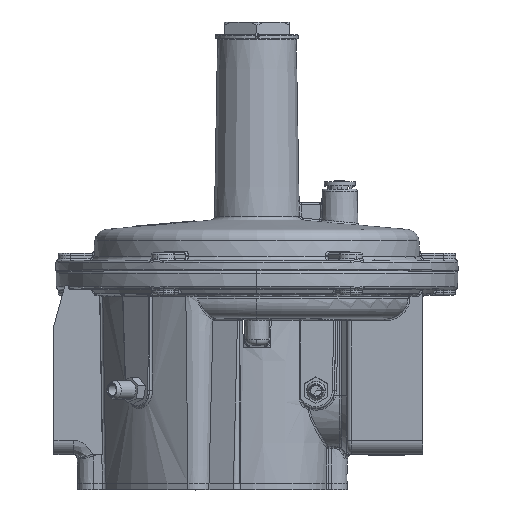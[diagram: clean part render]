
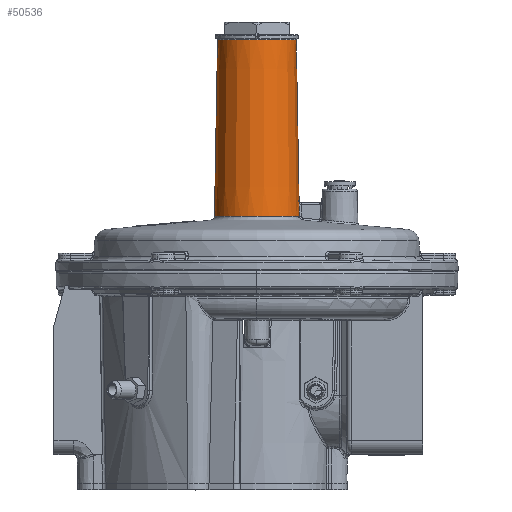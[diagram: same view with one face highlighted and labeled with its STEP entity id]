
A CAD part, top view. The second image highlights one B-rep face of the part: STEP entity #50536.
In plain terms, the highlighted conical face has half-angle 1 degrees and reference radius 19 mm.
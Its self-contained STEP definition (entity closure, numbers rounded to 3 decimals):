
#638 = AXIS2_PLACEMENT_3D ( 'NONE', #11425, #11423, #11422 ) ;
#4142 = CARTESIAN_POINT ( 'NONE',  ( 20.406, 61.744, 1.907 ) ) ;
#4152 = CARTESIAN_POINT ( 'NONE',  ( -19.008, 146.855, 0. ) ) ;
#4160 = CARTESIAN_POINT ( 'NONE',  ( -20.495, 61.744, 0. ) ) ;
#4165 = CARTESIAN_POINT ( 'NONE',  ( 20.273, 69.328, 1.906 ) ) ;
#4192 = CARTESIAN_POINT ( 'NONE',  ( 19.008, 146.855, 0. ) ) ;
#4201 = CARTESIAN_POINT ( 'NONE',  ( 20.362, 69.328, 0. ) ) ;
#5473 = ORIENTED_EDGE ( 'NONE', *, *, #24935, .F. ) ;
#5476 = ORIENTED_EDGE ( 'NONE', *, *, #24934, .T. ) ;
#5479 = ORIENTED_EDGE ( 'NONE', *, *, #24933, .T. ) ;
#5482 = ORIENTED_EDGE ( 'NONE', *, *, #24932, .F. ) ;
#5486 = ORIENTED_EDGE ( 'NONE', *, *, #24931, .T. ) ;
#5489 = ORIENTED_EDGE ( 'NONE', *, *, #24930, .T. ) ;
#8839 = VERTEX_POINT ( 'NONE', #4142 ) ;
#8843 = VERTEX_POINT ( 'NONE', #4152 ) ;
#8846 = VERTEX_POINT ( 'NONE', #4160 ) ;
#8848 = VERTEX_POINT ( 'NONE', #4165 ) ;
#8858 = VERTEX_POINT ( 'NONE', #4192 ) ;
#8861 = VERTEX_POINT ( 'NONE', #4201 ) ;
#11422 = DIRECTION ( 'NONE',  ( 1., 0., 0. ) ) ;
#11423 = DIRECTION ( 'NONE',  ( 0., -1., 0. ) ) ;
#11425 = CARTESIAN_POINT ( 'NONE',  ( 0., 147.346, 0. ) ) ;
#16846 = EDGE_LOOP ( 'NONE', ( #5489, #5486, #5482, #5479, #5476, #5473 ) ) ;
#22042 = B_SPLINE_CURVE_WITH_KNOTS ( 'NONE', 3,
 ( #32663, #32662, #32668, #32669, #32670, #32671, #32672 ),
 .UNSPECIFIED., .F., .F.,
 ( 4, 3, 4 ),
 ( 0., 0.002, 0.008 ),
 .UNSPECIFIED. ) ;
#24930 = EDGE_CURVE ( 'NONE', #8858, #8843, #31229, .T. ) ;
#24931 = EDGE_CURVE ( 'NONE', #8843, #8846, #31234, .T. ) ;
#24932 = EDGE_CURVE ( 'NONE', #8839, #8846, #31237, .T. ) ;
#24933 = EDGE_CURVE ( 'NONE', #8839, #8848, #22042, .T. ) ;
#24934 = EDGE_CURVE ( 'NONE', #8848, #8861, #31240, .T. ) ;
#24935 = EDGE_CURVE ( 'NONE', #8858, #8861, #31236, .T. ) ;
#26805 = AXIS2_PLACEMENT_3D ( 'NONE', #32659, #32660, #32661 ) ;
#26806 = AXIS2_PLACEMENT_3D ( 'NONE', #32664, #32665, #32666 ) ;
#26807 = AXIS2_PLACEMENT_3D ( 'NONE', #32673, #32674, #32675 ) ;
#31229 = CIRCLE ( 'NONE', #26805, 19.008 ) ;
#31234 = LINE ( 'NONE', #32658, #31238 ) ;
#31236 = LINE ( 'NONE', #32657, #31242 ) ;
#31237 = CIRCLE ( 'NONE', #26806, 20.495 ) ;
#31238 = VECTOR ( 'NONE', #32651, 1000. ) ;
#31240 = CIRCLE ( 'NONE', #26807, 20.362 ) ;
#31242 = VECTOR ( 'NONE', #32667, 1000. ) ;
#32651 = DIRECTION ( 'NONE',  ( -0.017, -1., 0. ) ) ;
#32657 = CARTESIAN_POINT ( 'NONE',  ( 19., 147.346, 0. ) ) ;
#32658 = CARTESIAN_POINT ( 'NONE',  ( -19., 147.346, 0. ) ) ;
#32659 = CARTESIAN_POINT ( 'NONE',  ( 0., 146.855, 0. ) ) ;
#32660 = DIRECTION ( 'NONE',  ( 0., -1., 0. ) ) ;
#32661 = DIRECTION ( 'NONE',  ( -1., 0., 0. ) ) ;
#32662 = CARTESIAN_POINT ( 'NONE',  ( 20.394, 62.41, 1.907 ) ) ;
#32663 = CARTESIAN_POINT ( 'NONE',  ( 20.406, 61.744, 1.907 ) ) ;
#32664 = CARTESIAN_POINT ( 'NONE',  ( 0., 61.744, 0. ) ) ;
#32665 = DIRECTION ( 'NONE',  ( 0., -1., 0. ) ) ;
#32666 = DIRECTION ( 'NONE',  ( 1., 0., 0. ) ) ;
#32667 = DIRECTION ( 'NONE',  ( 0.017, -1., 0. ) ) ;
#32668 = CARTESIAN_POINT ( 'NONE',  ( 20.382, 63.077, 1.907 ) ) ;
#32669 = CARTESIAN_POINT ( 'NONE',  ( 20.371, 63.743, 1.907 ) ) ;
#32670 = CARTESIAN_POINT ( 'NONE',  ( 20.338, 65.605, 1.907 ) ) ;
#32671 = CARTESIAN_POINT ( 'NONE',  ( 20.305, 67.467, 1.907 ) ) ;
#32672 = CARTESIAN_POINT ( 'NONE',  ( 20.273, 69.328, 1.906 ) ) ;
#32673 = CARTESIAN_POINT ( 'NONE',  ( 0., 69.328, 0. ) ) ;
#32674 = DIRECTION ( 'NONE',  ( 0., 1., 0. ) ) ;
#32675 = DIRECTION ( 'NONE',  ( -1., 0., 0. ) ) ;
#50536 = ADVANCED_FACE ( 'NONE', ( #51462 ), #51473, .T. ) ;
#51462 = FACE_OUTER_BOUND ( 'NONE', #16846, .T. ) ;
#51473 = CONICAL_SURFACE ( 'NONE', #638, 19., 0.017 ) ;
